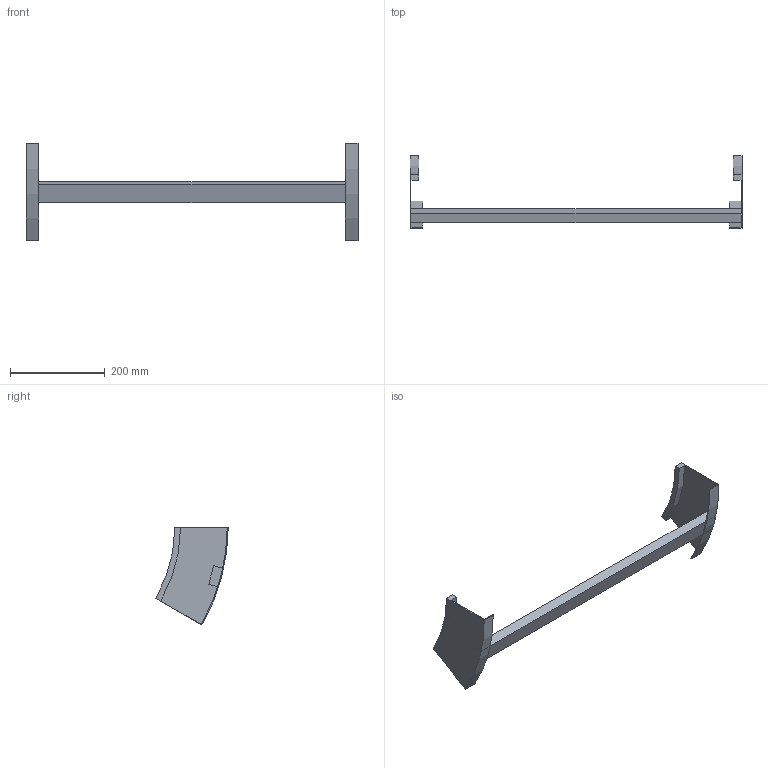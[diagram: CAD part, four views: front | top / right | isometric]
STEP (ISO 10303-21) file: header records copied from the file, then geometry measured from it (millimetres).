
FILE_DESCRIPTION (( 'STEP AP214' ), '1' );
FILE_NAME ('B2X32B3J700XX.step', '2025-03-20T10:00:35', ( '' ), ( '' ), 'SwSTEP 2.0', 'SolidWorks 2023', '' );
FILE_SCHEMA (( 'AUTOMOTIVE_DESIGN' ));
Length unit declared in the file: millimetre
Products named in the file (3): B2X32B3J700XX; B2_LONGH.SALITA_30°_H112.5_R300; TRAVERSINO_700
Assembly tree (3 placements, depth 2):
  B2X32B3J700XX
    B2_LONGH.SALITA_30°_H112.5_R300  x2
    TRAVERSINO_700
Bounding box: 700 x 152.69 x 206.25 mm (x, y, z)
Volume: 730770.5 mm3; surface area: 204935.9 mm2
Topology: 3 solids, 3 shells, 26 faces, 60 edges, 40 vertices
Faces by surface type: plane 18, cylinder 8
Entity records: 544 total; most frequent: DIRECTION 88, CARTESIAN_POINT 82, ORIENTED_EDGE 72, EDGE_CURVE 36, AXIS2_PLACEMENT_3D 30, LINE 28, VECTOR 28, VERTEX_POINT 24
